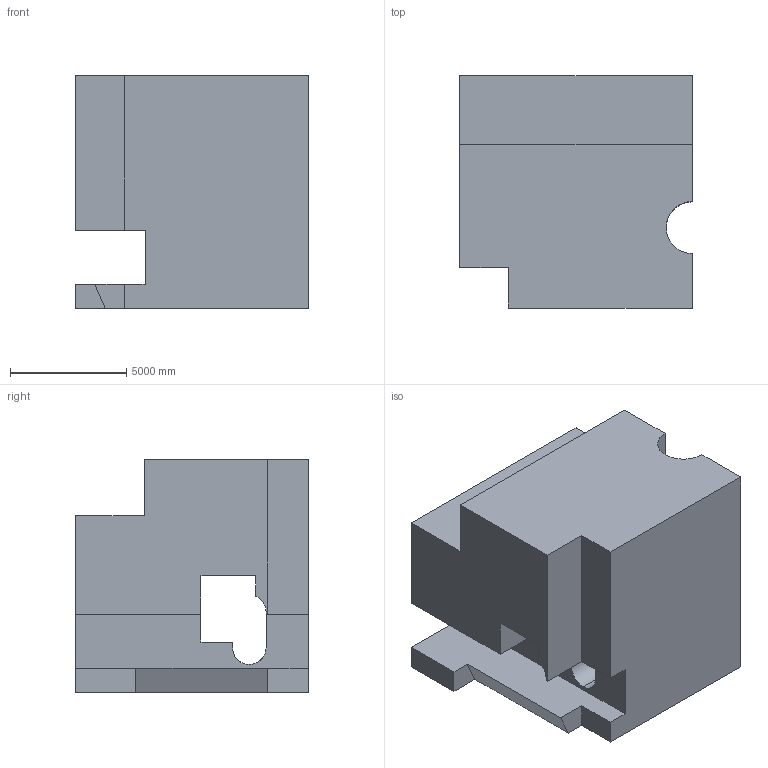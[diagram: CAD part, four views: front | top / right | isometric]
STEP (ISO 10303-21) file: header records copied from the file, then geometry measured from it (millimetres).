
FILE_DESCRIPTION (( 'STEP AP203' ), '1' );
FILE_NAME ('620.STEP', '2022-08-04T14:34:32', ( 'user' ), ( '' ), 'SwSTEP 2.0', 'SolidWorks 2021', '' );
FILE_SCHEMA (( 'CONFIG_CONTROL_DESIGN' ));
Length unit declared in the file: centimetre
Products named in the file (1): 620
Bounding box: 10000 x 10000 x 10000 mm (x, y, z)
Volume: 738543232868.6 mm3; surface area: 683794385.2 mm2
Topology: 1 solids, 1 shells, 33 faces, 99 edges, 66 vertices
Faces by surface type: plane 26, cylinder 7
Entity records: 1281 total; most frequent: CARTESIAN_POINT 297, ORIENTED_EDGE 198, DIRECTION 178, EDGE_CURVE 99, LINE 84, VECTOR 84, VERTEX_POINT 66, AXIS2_PLACEMENT_3D 47
